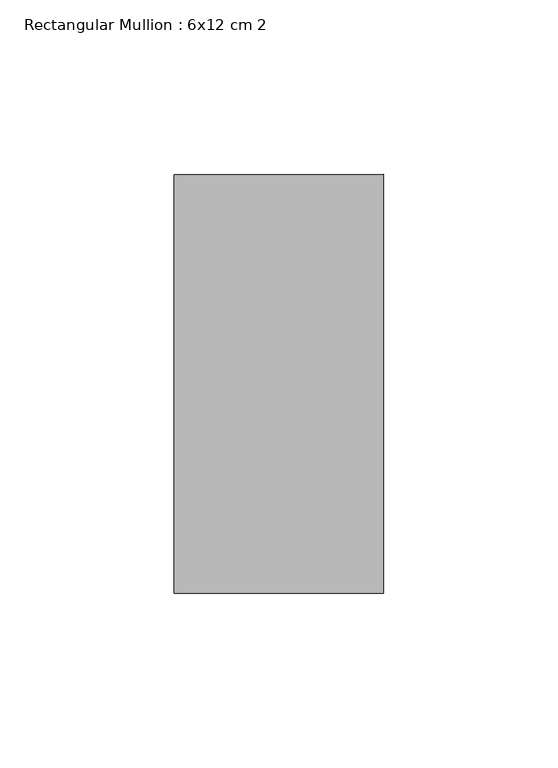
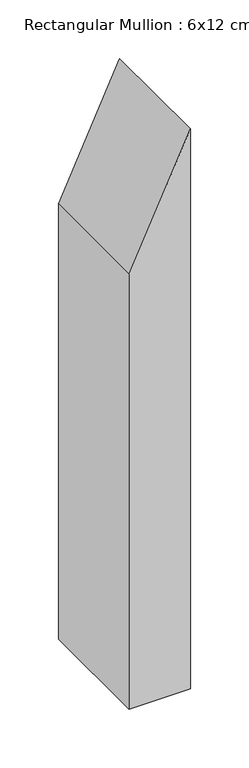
"""IFC4 building model written with IfcOpenShell, lengths in millimetres: member geometry, Rectangular Mullion : 6x12 cm 2."""

import ifcopenshell
import ifcopenshell.guid

model = None  # the IFC model being written
_history = None  # IfcOwnerHistory: only IFC2X3 demands one
_inside = {}  # id of a spatial element -> (the spatial element, [elements in it])
_under = {}  # id of a project, library or spatial element -> (it, [spatial elements below it])
_declared = {}  # id of a project -> (the project, [libraries it declares])
_typed = {}  # id of a type object -> (the type object, [elements of that type])
_made_of = {}  # id of a material, layer set ... -> (it, [elements and type objects made of it])


def new_model(schema):
    """Start an empty IFC model of exactly this schema.

    Asked for "IFC4X3", IfcOpenShell would pick the latest addendum, in which some entities
    have other attributes; the version numbers below select the first issue.
    IFC2X3 requires an IfcOwnerHistory on every rooted entity: one is made here for all.
    """
    global model, _history
    if schema == "IFC4X3":
        model = ifcopenshell.file(schema_version=(4, 3, 0, 0))
    else:
        model = ifcopenshell.file(schema=schema)
    _inside.clear()
    _under.clear()
    _declared.clear()
    _typed.clear()
    _made_of.clear()
    _history = None
    if model.schema == "IFC2X3":
        org = make("IfcOrganization", Name="unknown")
        user = make(
            "IfcPersonAndOrganization",
            ThePerson=make("IfcPerson", FamilyName="unknown"),
            TheOrganization=org,
        )
        app = make(
            "IfcApplication",
            ApplicationDeveloper=org,
            Version="unknown",
            ApplicationFullName="unknown",
            ApplicationIdentifier="unknown",
        )
        _history = make(
            "IfcOwnerHistory",
            OwningUser=user,
            OwningApplication=app,
            ChangeAction="ADDED",
            CreationDate=0,
        )
    return model


def make(cls, **values):
    """One entity of the class cls with the attributes given. An attribute that is None is left unset."""
    return model.create_entity(
        cls, **{name: value for name, value in values.items() if value is not None}
    )


def rooted(cls, **values):
    """An entity with a GlobalId (a new one), such as an element, a storey or a relation."""
    return make(cls, GlobalId=ifcopenshell.guid.new(), OwnerHistory=_history, **values)


def si_unit(unit_type, name, prefix=None):
    """IfcSIUnit, for example si_unit("LENGTHUNIT", "METRE", prefix="MILLI")."""
    return make("IfcSIUnit", UnitType=unit_type, Prefix=prefix, Name=name)


def assignment(units):
    """IfcUnitAssignment: the units of a project."""
    return None if units is None else make("IfcUnitAssignment", Units=units)


def point(xyz):
    """IfcCartesianPoint."""
    return None if xyz is None else make("IfcCartesianPoint", Coordinates=xyz)


def direction(xyz):
    """IfcDirection."""
    return None if xyz is None else make("IfcDirection", DirectionRatios=xyz)


def frame(location, z_axis=None, x_axis=None):
    """IfcAxis2Placement3D, a coordinate frame: its origin and axes. An axis left out is left unset."""
    return make(
        "IfcAxis2Placement3D",
        Location=point(location),
        Axis=direction(z_axis),
        RefDirection=direction(x_axis),
    )


def origin():
    """The frame at (0, 0, 0) with its axes left unset."""
    return frame((0.0, 0.0, 0.0))


def place(relative_to, where):
    """IfcLocalPlacement: puts the frame where relative to a parent placement (None: the world)."""
    return make(
        "IfcLocalPlacement", PlacementRelTo=relative_to, RelativePlacement=where
    )


def context(
    kind, dimensions, precision=None, world=None, true_north=None, identifier=None
):
    """IfcGeometricRepresentationContext, for example the 3D "Model" context."""
    return make(
        "IfcGeometricRepresentationContext",
        ContextIdentifier=identifier,
        ContextType=kind,
        CoordinateSpaceDimension=dimensions,
        Precision=precision,
        WorldCoordinateSystem=world,
        TrueNorth=true_north,
    )


def project(units=None, contexts=None):
    """IfcProject with its units and contexts."""
    return rooted(
        "IfcProject",
        Name="project",
        RepresentationContexts=contexts,
        UnitsInContext=assignment(units),
    )


def spatial(cls, under=None, at=None, **own):
    """A site, building, storey or space (cls), placed at a placement, below another one or the project."""
    s = rooted(cls, ObjectPlacement=at, **own)
    if under is not None:
        _under.setdefault(under.id(), (under, []))[1].append(s)
    return s


def polyline(points):
    """IfcPolyline through the points."""
    return make("IfcPolyline", Points=[point(p) for p in points])


def outline(outer, holes=None, kind="AREA"):
    """IfcArbitraryClosedProfileDef: a profile drawn as a closed curve; with holes, ...WithVoids."""
    if holes is None:
        return make("IfcArbitraryClosedProfileDef", ProfileType=kind, OuterCurve=outer)
    return make(
        "IfcArbitraryProfileDefWithVoids",
        ProfileType=kind,
        OuterCurve=outer,
        InnerCurves=holes,
    )


def extrude(swept, where, along, depth):
    """IfcExtrudedAreaSolid: the profile swept, set in the frame where, extruded along a direction by depth."""
    return make(
        "IfcExtrudedAreaSolid",
        SweptArea=swept,
        Position=where,
        ExtrudedDirection=direction(along),
        Depth=depth,
    )


def shape(context_of_items, identifier, shape_type, items):
    """IfcShapeRepresentation: the items that make up one representation, for example the "Body"."""
    return make(
        "IfcShapeRepresentation",
        ContextOfItems=context_of_items,
        RepresentationIdentifier=identifier,
        RepresentationType=shape_type,
        Items=items,
    )


def source(mapping_origin, context_of_items, identifier, shape_type, items):
    """IfcRepresentationMap: a shape defined once, which mapped items show again and again."""
    return make(
        "IfcRepresentationMap",
        MappingOrigin=mapping_origin,
        MappedRepresentation=shape(context_of_items, identifier, shape_type, items),
    )


def transform(
    local_origin,
    x_axis=None,
    y_axis=None,
    z_axis=None,
    scale=None,
    scale2=None,
    scale3=None,
    uniform=True,
):
    """IfcCartesianTransformationOperator3D, or its non-uniform kind. x_axis, y_axis, z_axis: its Axis1, 2, 3."""
    if uniform:
        return make(
            "IfcCartesianTransformationOperator3D",
            Axis1=direction(x_axis),
            Axis2=direction(y_axis),
            LocalOrigin=point(local_origin),
            Scale=scale,
            Axis3=direction(z_axis),
        )
    return make(
        "IfcCartesianTransformationOperator3DnonUniform",
        Axis1=direction(x_axis),
        Axis2=direction(y_axis),
        LocalOrigin=point(local_origin),
        Scale=scale,
        Axis3=direction(z_axis),
        Scale2=scale2,
        Scale3=scale3,
    )


def mapped(mapping_source, mapping_target):
    """IfcMappedItem: shows the shape of a source again, moved by a transform."""
    return make(
        "IfcMappedItem", MappingSource=mapping_source, MappingTarget=mapping_target
    )


def made_of(thing, what):
    """Note that an element or type object is made of a material, layer set ...; save() writes the relation."""
    if what is not None:
        _made_of.setdefault(what.id(), (what, []))[1].append(thing)
    return thing


def element(
    cls,
    number,
    at=None,
    inside=None,
    cuts=None,
    type_object=None,
    material=None,
    context=None,
    identifier="Body",
    shape_type=None,
    held_by="IfcProductDefinitionShape",
    body=None,
    shapes=None,
    **own,
):
    """One element of the class cls, such as IfcWall. Its Tag is "e" and its number.

    at: its placement. inside: the storey or other place that contains it. cuts: it is an
    opening in that element (IfcRelVoidsElement). A single representation is given by context,
    identifier, shape_type and body (its items); several are given by shapes. held_by: the class
    of the entity that holds the representations. save() writes the other relations.
    """
    e = rooted(cls, Tag="e%d" % number, ObjectPlacement=at, **own)
    if body is not None:
        shapes = [shape(context, identifier, shape_type, body)]
    if shapes is not None:
        e.Representation = make(held_by, Representations=shapes)
    if inside is not None:
        _inside.setdefault(inside.id(), (inside, []))[1].append(e)
    if cuts is not None:
        rooted(
            "IfcRelVoidsElement", RelatingBuildingElement=cuts, RelatedOpeningElement=e
        )
    if type_object is not None:
        _typed.setdefault(type_object.id(), (type_object, []))[1].append(e)
    return made_of(e, material)


def aggregate(whole, parts):
    """IfcRelAggregates: a whole, such as a stair, and the parts it consists of."""
    return rooted("IfcRelAggregates", RelatingObject=whole, RelatedObjects=parts)


def save(model, path):
    """Write the relations noted so far, then the file.

    IfcRelAggregates (storeys below a building ...), IfcRelContainedInSpatialStructure (elements
    in a storey), IfcRelDefinesByType, IfcRelAssociatesMaterial and IfcRelDeclares: one each for
    every whole, place, type object, material and project.
    """
    for whole, parts in _under.values():
        aggregate(whole, parts)
    for where, things in _inside.values():
        rooted(
            "IfcRelContainedInSpatialStructure",
            RelatedElements=things,
            RelatingStructure=where,
        )
    for kind, things in _typed.values():
        rooted("IfcRelDefinesByType", RelatedObjects=things, RelatingType=kind)
    for what, things in _made_of.values():
        rooted("IfcRelAssociatesMaterial", RelatedObjects=things, RelatingMaterial=what)
    for by, libraries in _declared.values():
        rooted("IfcRelDeclares", RelatingContext=by, RelatedDefinitions=libraries)
    model.write(path)


def rectangular_mullion_6x12_cm_2_b855a89d(model_context):
    return source(origin(), model_context, "Body", "SweptSolid", [
        extrude(outline(polyline([(39.335911, 0.0), (-90.2206395, -60.0), (-541.8100556, -60.0), (-541.8100556, 0.0), (39.335911, 0.0)])), frame((0.0, 85.0, 0.0), z_axis=(0.0, 1.0, 0.0), x_axis=(0.0, 0.0, 1.0)), (0.0, 0.0, 1.0), 120.0),
    ])


if __name__ == "__main__":
    model = new_model("IFC4")
    model_context = context("Model", 3, world=origin())
    ifc_project = project(units=[si_unit("LENGTHUNIT", "METRE", prefix="MILLI")], contexts=[model_context])
    site = spatial("IfcSite", under=ifc_project)
    building = spatial("IfcBuilding", under=site)
    placement = place(None, origin())
    rectangular_mullion_6x12_cm_2_shape = rectangular_mullion_6x12_cm_2_b855a89d(model_context)
    element("IfcMember", 1, ObjectType="Rectangular Mullion : 6x12 cm 2", at=placement, inside=building, context=model_context, shape_type="MappedRepresentation", body=[
        mapped(rectangular_mullion_6x12_cm_2_shape, transform((0.0, 0.0, 0.0), x_axis=(1.0, 0.0, 0.0), y_axis=(0.0, 1.0, 0.0), z_axis=(0.0, 0.0, 1.0))),
    ])
    save(model, "model.ifc")
